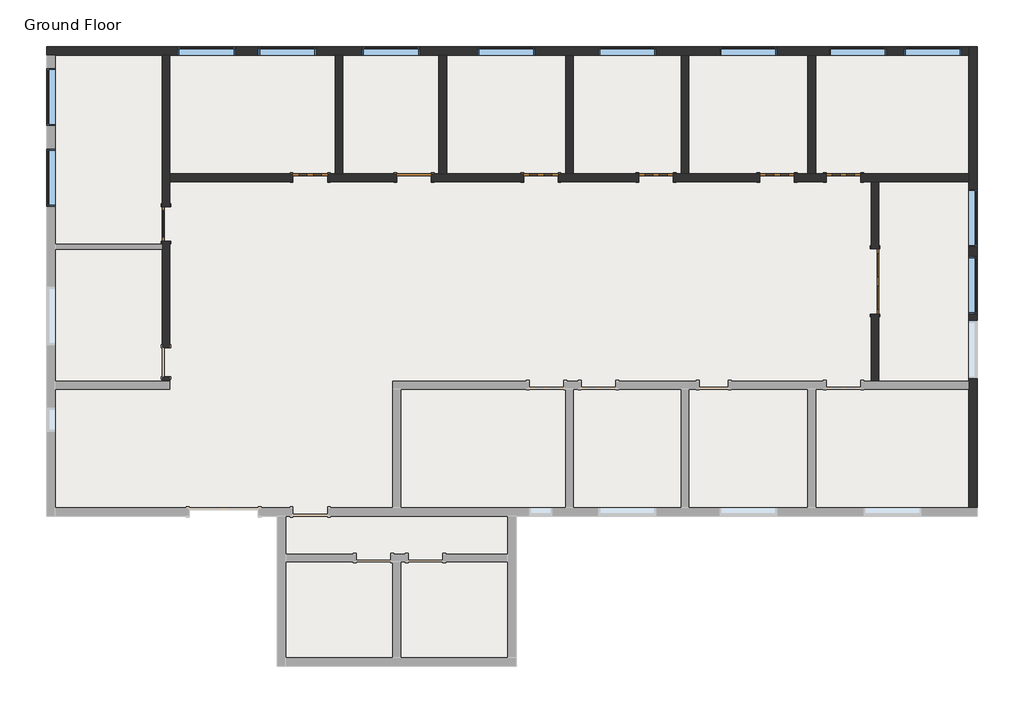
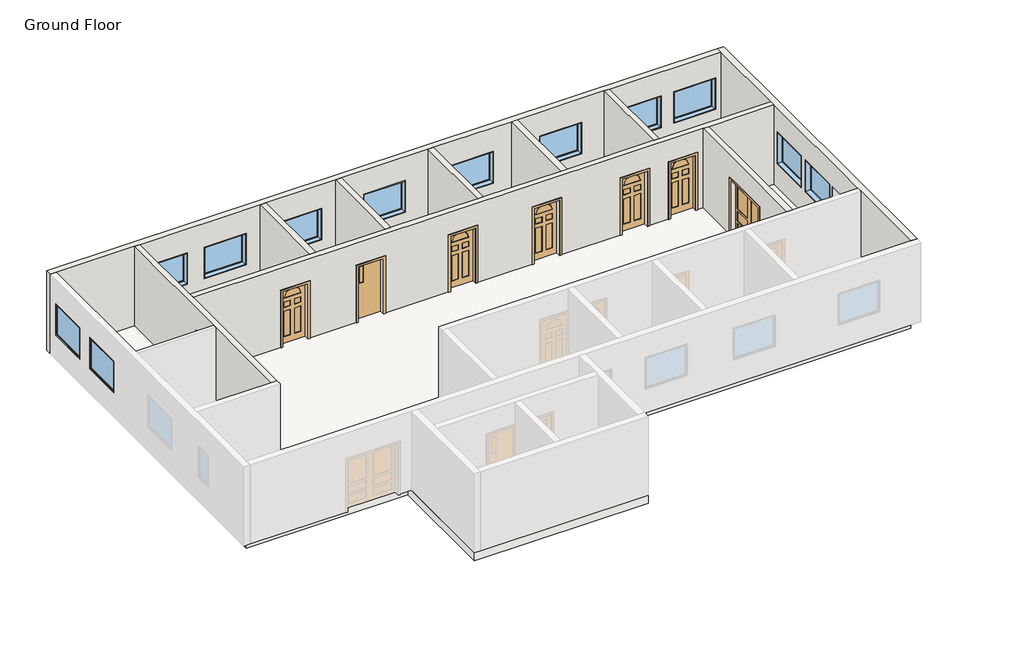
# One storey, part 2 of 2: 12 windows, 10 walls, 8 doors, 1 slab.
"""IFC4 building model written with IfcOpenShell, lengths in millimetres."""

import ifcopenshell
import ifcopenshell.guid

model = None  # the IFC model being written
_history = None  # IfcOwnerHistory: only IFC2X3 demands one
_inside = {}  # id of a spatial element -> (the spatial element, [elements in it])
_under = {}  # id of a project, library or spatial element -> (it, [spatial elements below it])
_declared = {}  # id of a project -> (the project, [libraries it declares])
_typed = {}  # id of a type object -> (the type object, [elements of that type])
_made_of = {}  # id of a material, layer set ... -> (it, [elements and type objects made of it])


def new_model(schema):
    """Start an empty IFC model of exactly this schema.

    Asked for "IFC4X3", IfcOpenShell would pick the latest addendum, in which some entities
    have other attributes; the version numbers below select the first issue.
    IFC2X3 requires an IfcOwnerHistory on every rooted entity: one is made here for all.
    """
    global model, _history
    if schema == "IFC4X3":
        model = ifcopenshell.file(schema_version=(4, 3, 0, 0))
    else:
        model = ifcopenshell.file(schema=schema)
    _inside.clear()
    _under.clear()
    _declared.clear()
    _typed.clear()
    _made_of.clear()
    _history = None
    if model.schema == "IFC2X3":
        org = make("IfcOrganization", Name="unknown")
        user = make(
            "IfcPersonAndOrganization",
            ThePerson=make("IfcPerson", FamilyName="unknown"),
            TheOrganization=org,
        )
        app = make(
            "IfcApplication",
            ApplicationDeveloper=org,
            Version="unknown",
            ApplicationFullName="unknown",
            ApplicationIdentifier="unknown",
        )
        _history = make(
            "IfcOwnerHistory",
            OwningUser=user,
            OwningApplication=app,
            ChangeAction="ADDED",
            CreationDate=0,
        )
    return model


def make(cls, **values):
    """One entity of the class cls with the attributes given. An attribute that is None is left unset."""
    return model.create_entity(
        cls, **{name: value for name, value in values.items() if value is not None}
    )


def rooted(cls, **values):
    """An entity with a GlobalId (a new one), such as an element, a storey or a relation."""
    return make(cls, GlobalId=ifcopenshell.guid.new(), OwnerHistory=_history, **values)


def si_unit(unit_type, name, prefix=None):
    """IfcSIUnit, for example si_unit("LENGTHUNIT", "METRE", prefix="MILLI")."""
    return make("IfcSIUnit", UnitType=unit_type, Prefix=prefix, Name=name)


def assignment(units):
    """IfcUnitAssignment: the units of a project."""
    return None if units is None else make("IfcUnitAssignment", Units=units)


def point(xyz):
    """IfcCartesianPoint."""
    return None if xyz is None else make("IfcCartesianPoint", Coordinates=xyz)


def direction(xyz):
    """IfcDirection."""
    return None if xyz is None else make("IfcDirection", DirectionRatios=xyz)


def frame(location, z_axis=None, x_axis=None):
    """IfcAxis2Placement3D, a coordinate frame: its origin and axes. An axis left out is left unset."""
    return make(
        "IfcAxis2Placement3D",
        Location=point(location),
        Axis=direction(z_axis),
        RefDirection=direction(x_axis),
    )


def frame_2d(location, x_axis=None):
    """IfcAxis2Placement2D, a coordinate frame in the plane: its origin and x axis."""
    return make(
        "IfcAxis2Placement2D", Location=point(location), RefDirection=direction(x_axis)
    )


def origin():
    """The frame at (0, 0, 0) with its axes left unset."""
    return frame((0.0, 0.0, 0.0))


def origin_with_axes():
    """The frame at (0, 0, 0) with the z axis (0, 0, 1) and the x axis (1, 0, 0) written out."""
    return frame((0.0, 0.0, 0.0), z_axis=(0.0, 0.0, 1.0), x_axis=(1.0, 0.0, 0.0))


def place(relative_to, where):
    """IfcLocalPlacement: puts the frame where relative to a parent placement (None: the world)."""
    return make(
        "IfcLocalPlacement", PlacementRelTo=relative_to, RelativePlacement=where
    )


def context(
    kind, dimensions, precision=None, world=None, true_north=None, identifier=None
):
    """IfcGeometricRepresentationContext, for example the 3D "Model" context."""
    return make(
        "IfcGeometricRepresentationContext",
        ContextIdentifier=identifier,
        ContextType=kind,
        CoordinateSpaceDimension=dimensions,
        Precision=precision,
        WorldCoordinateSystem=world,
        TrueNorth=true_north,
    )


def project(units=None, contexts=None):
    """IfcProject with its units and contexts."""
    return rooted(
        "IfcProject",
        Name="project",
        RepresentationContexts=contexts,
        UnitsInContext=assignment(units),
    )


def spatial(cls, under=None, at=None, **own):
    """A site, building, storey or space (cls), placed at a placement, below another one or the project."""
    s = rooted(cls, ObjectPlacement=at, **own)
    if under is not None:
        _under.setdefault(under.id(), (under, []))[1].append(s)
    return s


def polyline(points):
    """IfcPolyline through the points."""
    return make("IfcPolyline", Points=[point(p) for p in points])


def circle_curve(where, radius):
    """IfcCircle in the frame where."""
    return make("IfcCircle", Position=where, Radius=radius)


def trimmed(basis, trim1, trim2, sense, master):
    """IfcTrimmedCurve: the piece of a basis curve between two trims."""
    return make(
        "IfcTrimmedCurve",
        BasisCurve=basis,
        Trim1=trim1,
        Trim2=trim2,
        SenseAgreement=sense,
        MasterRepresentation=master,
    )


def segment(curve, same_sense, transition):
    """IfcCompositeCurveSegment."""
    return make(
        "IfcCompositeCurveSegment",
        Transition=transition,
        SameSense=same_sense,
        ParentCurve=curve,
    )


def composite_curve(segments, self_intersect=None):
    """IfcCompositeCurve: segments joined end to end."""
    return make("IfcCompositeCurve", Segments=segments, SelfIntersect=self_intersect)


def outline(outer, holes=None, kind="AREA"):
    """IfcArbitraryClosedProfileDef: a profile drawn as a closed curve; with holes, ...WithVoids."""
    if holes is None:
        return make("IfcArbitraryClosedProfileDef", ProfileType=kind, OuterCurve=outer)
    return make(
        "IfcArbitraryProfileDefWithVoids",
        ProfileType=kind,
        OuterCurve=outer,
        InnerCurves=holes,
    )


def extrude(swept, where, along, depth):
    """IfcExtrudedAreaSolid: the profile swept, set in the frame where, extruded along a direction by depth."""
    return make(
        "IfcExtrudedAreaSolid",
        SweptArea=swept,
        Position=where,
        ExtrudedDirection=direction(along),
        Depth=depth,
    )


def faces_of(points, faces, orient=None, outer=None):
    """IfcFace entities. A face is a list of loops; a loop is a list of indices into points, from 0.

    orient and outer hold one flag for each loop. By default every Orientation is true, the
    first loop of a face is its IfcFaceOuterBound and the others are IfcFaceBound.
    """
    made = []
    for i, loops in enumerate(faces):
        bounds = []
        for j, loop in enumerate(loops):
            is_outer = j == 0 if outer is None else outer[i][j]
            bounds.append(
                make(
                    "IfcFaceOuterBound" if is_outer else "IfcFaceBound",
                    Bound=make("IfcPolyLoop", Polygon=[points[k] for k in loop]),
                    Orientation=True if orient is None else orient[i][j],
                )
            )
        made.append(make("IfcFace", Bounds=bounds))
    return made


def faceted_brep(points, faces, orient=None, outer=None, voids=None):
    """IfcFacetedBrep: a solid bounded by flat faces; with voids (closed shells), ...WithVoids."""
    shared = [point(p) for p in points]
    hull = make("IfcClosedShell", CfsFaces=faces_of(shared, faces, orient, outer))
    if voids is None:
        return make("IfcFacetedBrep", Outer=hull)
    return make(
        "IfcFacetedBrepWithVoids",
        Outer=hull,
        Voids=[
            make(cls, CfsFaces=faces_of(shared, fs, o, b)) for cls, fs, o, b in voids
        ],
    )


def shape(context_of_items, identifier, shape_type, items):
    """IfcShapeRepresentation: the items that make up one representation, for example the "Body"."""
    return make(
        "IfcShapeRepresentation",
        ContextOfItems=context_of_items,
        RepresentationIdentifier=identifier,
        RepresentationType=shape_type,
        Items=items,
    )


def source(mapping_origin, context_of_items, identifier, shape_type, items):
    """IfcRepresentationMap: a shape defined once, which mapped items show again and again."""
    return make(
        "IfcRepresentationMap",
        MappingOrigin=mapping_origin,
        MappedRepresentation=shape(context_of_items, identifier, shape_type, items),
    )


def transform(
    local_origin,
    x_axis=None,
    y_axis=None,
    z_axis=None,
    scale=None,
    scale2=None,
    scale3=None,
    uniform=True,
):
    """IfcCartesianTransformationOperator3D, or its non-uniform kind. x_axis, y_axis, z_axis: its Axis1, 2, 3."""
    if uniform:
        return make(
            "IfcCartesianTransformationOperator3D",
            Axis1=direction(x_axis),
            Axis2=direction(y_axis),
            LocalOrigin=point(local_origin),
            Scale=scale,
            Axis3=direction(z_axis),
        )
    return make(
        "IfcCartesianTransformationOperator3DnonUniform",
        Axis1=direction(x_axis),
        Axis2=direction(y_axis),
        LocalOrigin=point(local_origin),
        Scale=scale,
        Axis3=direction(z_axis),
        Scale2=scale2,
        Scale3=scale3,
    )


def mapped(mapping_source, mapping_target):
    """IfcMappedItem: shows the shape of a source again, moved by a transform."""
    return make(
        "IfcMappedItem", MappingSource=mapping_source, MappingTarget=mapping_target
    )


def made_of(thing, what):
    """Note that an element or type object is made of a material, layer set ...; save() writes the relation."""
    if what is not None:
        _made_of.setdefault(what.id(), (what, []))[1].append(thing)
    return thing


def element(
    cls,
    number,
    at=None,
    inside=None,
    cuts=None,
    type_object=None,
    material=None,
    context=None,
    identifier="Body",
    shape_type=None,
    held_by="IfcProductDefinitionShape",
    body=None,
    shapes=None,
    **own,
):
    """One element of the class cls, such as IfcWall. Its Tag is "e" and its number.

    at: its placement. inside: the storey or other place that contains it. cuts: it is an
    opening in that element (IfcRelVoidsElement). A single representation is given by context,
    identifier, shape_type and body (its items); several are given by shapes. held_by: the class
    of the entity that holds the representations. save() writes the other relations.
    """
    e = rooted(cls, Tag="e%d" % number, ObjectPlacement=at, **own)
    if body is not None:
        shapes = [shape(context, identifier, shape_type, body)]
    if shapes is not None:
        e.Representation = make(held_by, Representations=shapes)
    if inside is not None:
        _inside.setdefault(inside.id(), (inside, []))[1].append(e)
    if cuts is not None:
        rooted(
            "IfcRelVoidsElement", RelatingBuildingElement=cuts, RelatedOpeningElement=e
        )
    if type_object is not None:
        _typed.setdefault(type_object.id(), (type_object, []))[1].append(e)
    return made_of(e, material)


def aggregate(whole, parts):
    """IfcRelAggregates: a whole, such as a stair, and the parts it consists of."""
    return rooted("IfcRelAggregates", RelatingObject=whole, RelatedObjects=parts)


def save(model, path):
    """Write the relations noted so far, then the file.

    IfcRelAggregates (storeys below a building ...), IfcRelContainedInSpatialStructure (elements
    in a storey), IfcRelDefinesByType, IfcRelAssociatesMaterial and IfcRelDeclares: one each for
    every whole, place, type object, material and project.
    """
    for whole, parts in _under.values():
        aggregate(whole, parts)
    for where, things in _inside.values():
        rooted(
            "IfcRelContainedInSpatialStructure",
            RelatedElements=things,
            RelatingStructure=where,
        )
    for kind, things in _typed.values():
        rooted("IfcRelDefinesByType", RelatedObjects=things, RelatingType=kind)
    for what, things in _made_of.values():
        rooted("IfcRelAssociatesMaterial", RelatedObjects=things, RelatingMaterial=what)
    for by, libraries in _declared.values():
        rooted("IfcRelDeclares", RelatingContext=by, RelatedDefinitions=libraries)
    model.write(path)


def door_5eeea989(model_context):
    return source(origin(), model_context, "Body", "SweptSolid", [
        extrude(outline(polyline([(2209.8, -939.8), (0.0, -939.8), (0.0, -863.6), (2133.6, -863.6), (2133.6, 863.6), (0.0, 863.6), (0.0, 939.8), (2209.8, 939.8), (2209.8, -939.8)])), frame((0.0, 101.6, 0.0), z_axis=(0.0, 1.0, 0.0), x_axis=(0.0, 0.0, 1.0)), (0.0, 0.0, 1.0), 25.4),
        extrude(outline(polyline([(127.0, 88.9), (736.6, 88.9), (736.6, 63.5), (127.0, 63.5), (127.0, 88.9)])), frame((0.0, 0.0, 1066.8), z_axis=(0.0, 0.0, 1.0), x_axis=(1.0, 0.0, 0.0)), (0.0, 0.0, 1.0), 914.4),
        extrude(outline(polyline([(127.0, 88.9), (736.6, 88.9), (736.6, 63.5), (127.0, 63.5), (127.0, 88.9)])), frame((0.0, 0.0, 609.6), z_axis=(0.0, 0.0, 1.0), x_axis=(1.0, 0.0, 0.0)), (0.0, 0.0, 1.0), 355.6),
        extrude(outline(polyline([(127.0, 88.9), (736.6, 88.9), (736.6, 63.5), (127.0, 63.5), (127.0, 88.9)])), frame((0.0, 0.0, 152.4), z_axis=(0.0, 0.0, 1.0), x_axis=(1.0, 0.0, 0.0)), (0.0, 0.0, 1.0), 355.6),
        extrude(outline(polyline([(-736.6, 88.9), (-127.0, 88.9), (-127.0, 63.5), (-736.6, 63.5), (-736.6, 88.9)])), frame((0.0, 0.0, 1066.8), z_axis=(0.0, 0.0, 1.0), x_axis=(1.0, 0.0, 0.0)), (0.0, 0.0, 1.0), 914.4),
        extrude(outline(polyline([(-736.6, 88.9), (-127.0, 88.9), (-127.0, 63.5), (-736.6, 63.5), (-736.6, 88.9)])), frame((0.0, 0.0, 609.6), z_axis=(0.0, 0.0, 1.0), x_axis=(1.0, 0.0, 0.0)), (0.0, 0.0, 1.0), 355.6),
        extrude(outline(polyline([(-736.6, 88.9), (-127.0, 88.9), (-127.0, 63.5), (-736.6, 63.5), (-736.6, 88.9)])), frame((0.0, 0.0, 152.4), z_axis=(0.0, 0.0, 1.0), x_axis=(1.0, 0.0, 0.0)), (0.0, 0.0, 1.0), 355.6),
        extrude(outline(polyline([(2133.6, -863.6), (0.0, -863.6), (0.0, 863.6), (2133.6, 863.6), (2133.6, -863.6)]), holes=[polyline([(1981.2, 127.0), (1981.2, 736.6), (1066.8, 736.6), (1066.8, 127.0), (1981.2, 127.0)]), polyline([(609.6, 736.6), (609.6, 127.0), (965.2, 127.0), (965.2, 736.6), (609.6, 736.6)]), polyline([(508.0, 736.6), (152.4, 736.6), (152.4, 127.0), (508.0, 127.0), (508.0, 736.6)]), polyline([(1981.2, -127.0), (1066.8, -127.0), (1066.8, -736.6), (1981.2, -736.6), (1981.2, -127.0)]), polyline([(965.2, -736.6), (965.2, -127.0), (609.6, -127.0), (609.6, -736.6), (965.2, -736.6)]), polyline([(152.4, -127.0), (152.4, -736.6), (508.0, -736.6), (508.0, -127.0), (152.4, -127.0)])]), frame((0.0, 50.8, 0.0), z_axis=(0.0, 1.0, 0.0), x_axis=(0.0, 0.0, 1.0)), (0.0, 0.0, 1.0), 50.8),
        extrude(outline(polyline([(2133.6, -863.6), (2133.6, 863.6), (0.0, 863.6), (0.0, 939.8), (2209.8, 939.8), (2209.8, -939.8), (0.0, -939.8), (0.0, -863.6), (2133.6, -863.6)])), frame((0.0, -127.0, 0.0), z_axis=(0.0, 1.0, 0.0), x_axis=(0.0, 0.0, 1.0)), (0.0, 0.0, 1.0), 25.4),
    ])


def door_f6339938(model_context):
    return source(origin(), model_context, "Body", "SweptSolid", [
        extrude(outline(polyline([(0.0, -457.2), (0.0, 457.2), (2133.6, 457.2), (2133.6, -457.2), (0.0, -457.2)]), holes=[polyline([(254.0, -76.2), (254.0, -304.8), (1219.2, -304.8), (1219.2, -76.2), (254.0, -76.2)]), polyline([(254.0, 304.8), (254.0, 76.2), (1219.2, 76.2), (1219.2, 304.8), (254.0, 304.8)]), polyline([(1371.6, 76.2), (1574.8, 76.2), (1574.8, 304.8), (1371.6, 304.8), (1371.6, 76.2)]), polyline([(1371.6, -304.8), (1574.8, -304.8), (1574.8, -76.2), (1371.6, -76.2), (1371.6, -304.8)]), composite_curve([segment(polyline([(1727.2, 304.8), (1727.2, -304.8)]), True, "CONTINUOUS"), segment(trimmed(circle_curve(frame_2d((1727.2, 0.0)), 304.8), [point((1727.2, -304.8))], [point((1727.2, 304.8))], True, "CARTESIAN"), True, "CONTINUOUS")], self_intersect=False)]), frame((0.0, 50.8, 0.0), z_axis=(0.0, 1.0, 0.0), x_axis=(0.0, 0.0, 1.0)), (0.0, 0.0, 1.0), 50.8),
        extrude(outline(polyline([(0.0, 457.2), (0.0, 533.4), (2209.8, 533.4), (2209.8, -533.4), (0.0, -533.4), (0.0, -457.2), (2133.6, -457.2), (2133.6, 457.2), (0.0, 457.2)])), frame((0.0, -127.0, 0.0), z_axis=(0.0, 1.0, 0.0), x_axis=(0.0, 0.0, 1.0)), (0.0, 0.0, 1.0), 25.4),
        extrude(outline(polyline([(2209.8, -533.4), (0.0, -533.4), (0.0, -457.2), (2133.6, -457.2), (2133.6, 457.2), (0.0, 457.2), (0.0, 533.4), (2209.8, 533.4), (2209.8, -533.4)])), frame((0.0, 101.6, 0.0), z_axis=(0.0, 1.0, 0.0), x_axis=(0.0, 0.0, 1.0)), (0.0, 0.0, 1.0), 25.4),
        extrude(outline(composite_curve([segment(polyline([(1727.2, -304.8), (1727.2, 304.8)]), True, "CONTINUOUS"), segment(trimmed(circle_curve(frame_2d((1727.2, 0.0)), 304.8), [point((1727.2, 304.8))], [point((1727.2, -304.8))], False, "CARTESIAN"), True, "CONTINUOUS")], self_intersect=False)), frame((0.0, 67.7333333, 0.0), z_axis=(0.0, 1.0, 0.0), x_axis=(0.0, 0.0, 1.0)), (0.0, 0.0, 1.0), 16.9333333),
        extrude(outline(polyline([(-304.8, 84.6666667), (-76.2, 84.6666667), (-76.2, 67.7333333), (-304.8, 67.7333333), (-304.8, 84.6666667)])), frame((0.0, 0.0, 254.0), z_axis=(0.0, 0.0, 1.0), x_axis=(1.0, 0.0, 0.0)), (0.0, 0.0, 1.0), 965.2),
        extrude(outline(polyline([(76.2, 84.6666667), (304.8, 84.6666667), (304.8, 67.7333333), (76.2, 67.7333333), (76.2, 84.6666667)])), frame((0.0, 0.0, 254.0), z_axis=(0.0, 0.0, 1.0), x_axis=(1.0, 0.0, 0.0)), (0.0, 0.0, 1.0), 965.2),
        extrude(outline(polyline([(76.2, 84.6666667), (304.8, 84.6666667), (304.8, 67.7333333), (76.2, 67.7333333), (76.2, 84.6666667)])), frame((0.0, 0.0, 1371.6), z_axis=(0.0, 0.0, 1.0), x_axis=(1.0, 0.0, 0.0)), (0.0, 0.0, 1.0), 203.2),
        extrude(outline(polyline([(-304.8, 84.6666667), (-76.2, 84.6666667), (-76.2, 67.7333333), (-304.8, 67.7333333), (-304.8, 84.6666667)])), frame((0.0, 0.0, 1371.6), z_axis=(0.0, 0.0, 1.0), x_axis=(1.0, 0.0, 0.0)), (0.0, 0.0, 1.0), 203.2),
    ])


def door_23e61c23(model_context):
    return source(origin(), model_context, "Body", "SweptSolid", [
        extrude(outline(polyline([(0.0, -457.2), (0.0, 457.2), (2133.6, 457.2), (2133.6, -457.2), (0.0, -457.2)]), holes=[polyline([(254.0, -76.2), (254.0, -304.8), (1219.2, -304.8), (1219.2, -76.2), (254.0, -76.2)]), polyline([(254.0, 304.8), (254.0, 76.2), (1219.2, 76.2), (1219.2, 304.8), (254.0, 304.8)]), polyline([(1371.6, 76.2), (1574.8, 76.2), (1574.8, 304.8), (1371.6, 304.8), (1371.6, 76.2)]), polyline([(1371.6, -304.8), (1574.8, -304.8), (1574.8, -76.2), (1371.6, -76.2), (1371.6, -304.8)]), composite_curve([segment(polyline([(1727.2, 304.8), (1727.2, -304.8)]), True, "CONTINUOUS"), segment(trimmed(circle_curve(frame_2d((1727.2, 0.0)), 304.8), [point((1727.2, -304.8))], [point((1727.2, 304.8))], True, "CARTESIAN"), True, "CONTINUOUS")], self_intersect=False)]), frame((0.0, -101.6, 0.0), z_axis=(0.0, 1.0, 0.0), x_axis=(0.0, 0.0, 1.0)), (0.0, 0.0, 1.0), 50.8),
        extrude(outline(polyline([(0.0, 457.2), (0.0, 533.4), (2209.8, 533.4), (2209.8, -533.4), (0.0, -533.4), (0.0, -457.2), (2133.6, -457.2), (2133.6, 457.2), (0.0, 457.2)])), frame((0.0, 101.6, 0.0), z_axis=(0.0, 1.0, 0.0), x_axis=(0.0, 0.0, 1.0)), (0.0, 0.0, 1.0), 25.4),
        extrude(outline(polyline([(2209.8, -533.4), (0.0, -533.4), (0.0, -457.2), (2133.6, -457.2), (2133.6, 457.2), (0.0, 457.2), (0.0, 533.4), (2209.8, 533.4), (2209.8, -533.4)])), frame((0.0, -127.0, 0.0), z_axis=(0.0, 1.0, 0.0), x_axis=(0.0, 0.0, 1.0)), (0.0, 0.0, 1.0), 25.4),
        extrude(outline(composite_curve([segment(polyline([(1727.2, -304.8), (1727.2, 304.8)]), True, "CONTINUOUS"), segment(trimmed(circle_curve(frame_2d((1727.2, 0.0)), 304.8), [point((1727.2, 304.8))], [point((1727.2, -304.8))], False, "CARTESIAN"), True, "CONTINUOUS")], self_intersect=False)), frame((0.0, -84.6666667, 0.0), z_axis=(0.0, 1.0, 0.0), x_axis=(0.0, 0.0, 1.0)), (0.0, 0.0, 1.0), 16.9333333),
        extrude(outline(polyline([(-304.8, -84.6666667), (-304.8, -67.7333333), (-76.2, -67.7333333), (-76.2, -84.6666667), (-304.8, -84.6666667)])), frame((0.0, 0.0, 254.0), z_axis=(0.0, 0.0, 1.0), x_axis=(1.0, 0.0, 0.0)), (0.0, 0.0, 1.0), 965.2),
        extrude(outline(polyline([(76.2, -84.6666667), (76.2, -67.7333333), (304.8, -67.7333333), (304.8, -84.6666667), (76.2, -84.6666667)])), frame((0.0, 0.0, 254.0), z_axis=(0.0, 0.0, 1.0), x_axis=(1.0, 0.0, 0.0)), (0.0, 0.0, 1.0), 965.2),
        extrude(outline(polyline([(76.2, -84.6666667), (76.2, -67.7333333), (304.8, -67.7333333), (304.8, -84.6666667), (76.2, -84.6666667)])), frame((0.0, 0.0, 1371.6), z_axis=(0.0, 0.0, 1.0), x_axis=(1.0, 0.0, 0.0)), (0.0, 0.0, 1.0), 203.2),
        extrude(outline(polyline([(-304.8, -84.6666667), (-304.8, -67.7333333), (-76.2, -67.7333333), (-76.2, -84.6666667), (-304.8, -84.6666667)])), frame((0.0, 0.0, 1371.6), z_axis=(0.0, 0.0, 1.0), x_axis=(1.0, 0.0, 0.0)), (0.0, 0.0, 1.0), 203.2),
    ])


def door_6ffddb7e(model_context):
    return source(origin(), model_context, "Body", "SweptSolid", [
        extrude(outline(polyline([(2209.8, -533.4), (0.0, -533.4), (0.0, -457.2), (2133.6, -457.2), (2133.6, 457.2), (0.0, 457.2), (0.0, 533.4), (2209.8, 533.4), (2209.8, -533.4)])), frame((0.0, 101.6, 0.0), z_axis=(0.0, 1.0, 0.0), x_axis=(0.0, 0.0, 1.0)), (0.0, 0.0, 1.0), 25.4),
        extrude(outline(polyline([(2133.6, 457.2), (0.0, 457.2), (0.0, 533.4), (2209.8, 533.4), (2209.8, -533.4), (0.0, -533.4), (0.0, -457.2), (2133.6, -457.2), (2133.6, 457.2)])), frame((0.0, -127.0, 0.0), z_axis=(0.0, 1.0, 0.0), x_axis=(0.0, 0.0, 1.0)), (0.0, 0.0, 1.0), 25.4),
        extrude(outline(polyline([(-177.8, 63.5), (-304.8, 63.5), (-304.8, 69.85), (-177.8, 69.85), (-177.8, 63.5)])), frame((0.0, 0.0, 1346.2), z_axis=(0.0, 0.0, 1.0), x_axis=(1.0, 0.0, 0.0)), (0.0, 0.0, 1.0), 635.0),
        extrude(outline(polyline([(-177.8, 82.55), (-304.8, 82.55), (-304.8, 88.9), (-177.8, 88.9), (-177.8, 82.55)])), frame((0.0, 0.0, 1346.2), z_axis=(0.0, 0.0, 1.0), x_axis=(1.0, 0.0, 0.0)), (0.0, 0.0, 1.0), 635.0),
        extrude(outline(polyline([(2133.6, -457.2), (0.0, -457.2), (0.0, 457.2), (2133.6, 457.2), (2133.6, -457.2)]), holes=[polyline([(1981.2, -304.8), (1981.2, -177.8), (1346.2, -177.8), (1346.2, -304.8), (1981.2, -304.8)])]), frame((0.0, 50.8, 0.0), z_axis=(0.0, 1.0, 0.0), x_axis=(0.0, 0.0, 1.0)), (0.0, 0.0, 1.0), 50.8),
    ])


def door_505a9a4a(model_context):
    return source(origin(), model_context, "Body", "SweptSolid", [
        extrude(outline(polyline([(2133.6, 457.2), (0.0, 457.2), (0.0, 533.4), (2209.8, 533.4), (2209.8, -533.4), (0.0, -533.4), (0.0, -457.2), (2133.6, -457.2), (2133.6, 457.2)])), frame((0.0, 101.6, 0.0), z_axis=(0.0, 1.0, 0.0), x_axis=(0.0, 0.0, 1.0)), (0.0, 0.0, 1.0), 25.4),
        extrude(outline(polyline([(2133.6, 457.2), (0.0, 457.2), (0.0, 533.4), (2209.8, 533.4), (2209.8, -533.4), (0.0, -533.4), (0.0, -457.2), (2133.6, -457.2), (2133.6, 457.2)])), frame((0.0, -127.0, 0.0), z_axis=(0.0, 1.0, 0.0), x_axis=(0.0, 0.0, 1.0)), (0.0, 0.0, 1.0), 25.4),
        extrude(outline(polyline([(355.6, -73.025), (355.6, -79.375), (-355.6, -79.375), (-355.6, -73.025), (355.6, -73.025)])), frame((0.0, 0.0, 101.6), z_axis=(0.0, 0.0, 1.0), x_axis=(1.0, 0.0, 0.0)), (0.0, 0.0, 1.0), 1930.4),
        extrude(outline(polyline([(2133.6, 457.2), (2133.6, -457.2), (0.0, -457.2), (0.0, 457.2), (2133.6, 457.2)]), holes=[polyline([(2032.0, -355.6), (2032.0, 355.6), (101.6, 355.6), (101.6, -355.6), (2032.0, -355.6)])]), frame((0.0, -101.6, 0.0), z_axis=(0.0, 1.0, 0.0), x_axis=(0.0, 0.0, 1.0)), (0.0, 0.0, 1.0), 50.8),
    ])


def window_145d3b12(model_context):
    return source(origin(), model_context, "Body", "SweptSolid", [
        extrude(outline(polyline([(660.4, 66.675), (-736.6, 66.675), (-736.6, 79.375), (660.4, 79.375), (660.4, 66.675)])), frame((0.0, 0.0, 977.9), z_axis=(0.0, 0.0, 1.0), x_axis=(1.0, 0.0, 0.0)), (0.0, 0.0, 1.0), 1092.2),
        extrude(outline(polyline([(2114.55, -781.05), (933.45, -781.05), (933.45, 704.85), (2114.55, 704.85), (2114.55, -781.05)]), holes=[polyline([(2070.1, -736.6), (2070.1, 660.4), (977.9, 660.4), (977.9, -736.6), (2070.1, -736.6)])]), frame((0.0, 50.8, 0.0), z_axis=(0.0, 1.0, 0.0), x_axis=(0.0, 0.0, 1.0)), (0.0, 0.0, 1.0), 44.45),
        extrude(outline(polyline([(2133.6, -800.1), (914.4, -800.1), (914.4, 723.9), (2133.6, 723.9), (2133.6, -800.1)]), holes=[polyline([(2101.85, -768.35), (2101.85, 692.15), (946.15, 692.15), (946.15, -768.35), (2101.85, -768.35)])]), frame((0.0, -114.3, 0.0), z_axis=(0.0, 1.0, 0.0), x_axis=(0.0, 0.0, 1.0)), (0.0, 0.0, 1.0), 165.1),
        extrude(outline(polyline([(2133.6, 723.9), (2133.6, -800.1), (914.4, -800.1), (914.4, 723.9), (2133.6, 723.9)]), holes=[polyline([(2114.55, 704.85), (933.45, 704.85), (933.45, -781.05), (2114.55, -781.05), (2114.55, 704.85)])]), frame((0.0, 50.8, 0.0), z_axis=(0.0, 1.0, 0.0), x_axis=(0.0, 0.0, 1.0)), (0.0, 0.0, 1.0), 63.5),
    ])


model = new_model("IFC4")

# Units and contexts
model_context = context("Model", 3, world=origin())
ifc_project = project(units=[si_unit("LENGTHUNIT", "METRE", prefix="MILLI")], contexts=[model_context])

# Site, building, storey
site = spatial("IfcSite", under=ifc_project)
building = spatial("IfcBuilding", under=site)
storey = spatial("IfcBuildingStorey", under=building, Name="Ground Floor", Elevation=0.0)

# Doors
placement = place(None, origin())
door_shape = door_5eeea989(model_context)
element("IfcDoor", 1, ObjectType="Double-Panel 1 : 68\" x 84\"", at=placement, inside=storey, context=model_context, shape_type="MappedRepresentation", body=[
    mapped(door_shape, transform((9307.5955952, 1505.7166256, 0.0), x_axis=(0.0, -1.0, 0.0), y_axis=(1.0, 0.0, 0.0), z_axis=(0.0, 0.0, 1.0))),
])
door_2_shape = door_f6339938(model_context)
element("IfcDoor", 2, ObjectType="Single-Decorative 2 : 36\" x 84\"", at=placement, inside=storey, context=model_context, shape_type="MappedRepresentation", body=[
    mapped(door_2_shape, transform((-5627.6044048, 4248.9166256, 0.0), x_axis=(1.0, 0.0, 0.0), y_axis=(0.0, 1.0, 0.0), z_axis=(0.0, 0.0, 1.0))),
])
element("IfcDoor", 3, ObjectType="Single-Decorative 2 : 36\" x 84\"", at=placement, inside=storey, context=model_context, shape_type="MappedRepresentation", body=[
    mapped(door_2_shape, transform((468.3955952, 4248.9166256, 0.0), x_axis=(1.0, 0.0, 0.0), y_axis=(0.0, 1.0, 0.0), z_axis=(0.0, 0.0, 1.0))),
])
element("IfcDoor", 4, ObjectType="Single-Decorative 2 : 36\" x 84\"", at=placement, inside=storey, context=model_context, shape_type="MappedRepresentation", body=[
    mapped(door_2_shape, transform((3516.3955952, 4248.9166256, 0.0), x_axis=(1.0, 0.0, 0.0), y_axis=(0.0, 1.0, 0.0), z_axis=(0.0, 0.0, 1.0))),
])
element("IfcDoor", 5, ObjectType="Single-Decorative 2 : 36\" x 84\"", at=placement, inside=storey, context=model_context, shape_type="MappedRepresentation", body=[
    mapped(door_2_shape, transform((6716.7955952, 4248.9166256, 0.0), x_axis=(1.0, 0.0, 0.0), y_axis=(0.0, 1.0, 0.0), z_axis=(0.0, 0.0, 1.0))),
])
door_3_shape = door_23e61c23(model_context)
element("IfcDoor", 6, ObjectType="Single-Decorative 2 : 36\" x 84\"", at=placement, inside=storey, context=model_context, shape_type="MappedRepresentation", body=[
    mapped(door_3_shape, transform((8469.3955952, 4248.9166256, 0.0), x_axis=(-1.0, 0.0, 0.0), y_axis=(0.0, -1.0, 0.0), z_axis=(0.0, 0.0, 1.0))),
])
door_4_shape = door_6ffddb7e(model_context)
element("IfcDoor", 7, ObjectType="Single-Flush Vision : 36\" x 84\"", at=placement, inside=storey, context=model_context, shape_type="MappedRepresentation", body=[
    mapped(door_4_shape, transform((-2884.4044048, 4248.9166256, 0.0), x_axis=(1.0, 0.0, 0.0), y_axis=(0.0, 1.0, 0.0), z_axis=(0.0, 0.0, 1.0))),
])
door_5_shape = door_505a9a4a(model_context)
element("IfcDoor", 8, ObjectType="Single-Glass 1 : 36\" x 84\"", at=placement, inside=storey, context=model_context, shape_type="MappedRepresentation", body=[
    mapped(door_5_shape, transform((-9437.6044048, 3029.7166256, 0.0), x_axis=(0.0, -1.0, 0.0), y_axis=(1.0, 0.0, 0.0), z_axis=(0.0, 0.0, 1.0))),
])

# Slab
element("IfcSlab", 9, ObjectType="Generic - 12\"", at=placement, inside=storey, context=model_context, shape_type="SweptSolid", body=[
    extrude(outline(polyline([(11784.0955952, 7487.4166256), (11784.0955952, -4475.9833744), (-179.3044048, -4475.9833744), (-179.3044048, -8666.9833744), (-6503.9044048, -8666.9833744), (-6503.9044048, -4475.9833744), (-12371.3044048, -4475.9833744), (-12371.3044048, 7487.4166256), (11784.0955952, 7487.4166256)])), frame((0.0, 0.0, -304.8), z_axis=(0.0, 0.0, 1.0), x_axis=(1.0, 0.0, 0.0)), (0.0, 0.0, 1.0), 304.8),
])

# Walls
element("IfcWall", 10, ObjectType="Generic - 8\"", at=placement, inside=storey, context=model_context, shape_type="Brep", body=[
    faceted_brep([(-9539.2044048, 2572.5166256, 2133.6), (-9539.2044048, 2572.5166256, 0.0), (-9539.2044048, 2483.6166256, 0.0), (-9539.2044048, 2356.6166256, 0.0), (-9539.2044048, -246.8833744, 0.0), (-9539.2044048, -246.8833744, 2133.6), (-9539.2044048, -1008.8833744, 2133.6), (-9539.2044048, -1008.8833744, 0.0), (-9539.2044048, -1135.8833744, 0.0), (-9539.2044048, -1135.8833744, 3048.0), (-9539.2044048, 2356.6166256, 3048.0), (-9539.2044048, 2483.6166256, 3048.0), (-9539.2044048, 7487.4166256, 3048.0), (-9539.2044048, 7487.4166256, 0.0), (-9539.2044048, 3486.9166256, 0.0), (-9539.2044048, 3486.9166256, 2133.6), (-9336.0044048, -246.8833744, 0.0), (-9336.0044048, 2572.5166256, 0.0), (-9336.0044048, 2572.5166256, 2133.6), (-9336.0044048, 3486.9166256, 2133.6), (-9336.0044048, 3486.9166256, 0.0), (-9336.0044048, 4147.3166256, 0.0), (-9336.0044048, 4350.5166256, 0.0), (-9336.0044048, 7487.4166256, 0.0), (-9336.0044048, 7487.4166256, 3048.0), (-9336.0044048, 4350.5166256, 3048.0), (-9336.0044048, 4147.3166256, 3048.0), (-9336.0044048, -1135.8833744, 3048.0), (-9336.0044048, -1135.8833744, 0.0), (-9336.0044048, -1008.8833744, 0.0), (-9336.0044048, -1008.8833744, 2133.6), (-9336.0044048, -246.8833744, 2133.6)], [[[0, 1, 2, 3, 4, 5, 6, 7, 8, 9, 10, 11, 12, 13, 14, 15]], [[16, 17, 18, 19, 20, 21, 22, 23, 24, 25, 26, 27, 28, 29, 30, 31]], [[8, 7, 29, 28]], [[14, 13, 23, 22, 21, 20]], [[4, 3, 2, 1, 17, 16]], [[12, 11, 10, 9, 27, 26, 25, 24]], [[13, 12, 24, 23]], [[9, 8, 28, 27]], [[30, 29, 7, 6]], [[31, 30, 6, 5]], [[16, 31, 5, 4]], [[18, 17, 1, 0]], [[19, 18, 0, 15]], [[20, 19, 15, 14]]]),
])
element("IfcWall", 11, ObjectType="Generic - 8\"", at=placement, inside=storey, context=model_context, shape_type="Brep", body=[
    faceted_brep([(7173.9955952, 4147.3166256, 0.0), (8012.1955952, 4147.3166256, 0.0), (8012.1955952, 4147.3166256, 2133.6), (8926.5955952, 4147.3166256, 2133.6), (8926.5955952, 4147.3166256, 0.0), (9205.9955952, 4147.3166256, 0.0), (9409.1955952, 4147.3166256, 0.0), (11784.0955952, 4147.3166256, 0.0), (11784.0955952, 4147.3166256, 3048.0), (9409.1955952, 4147.3166256, 3048.0), (9205.9955952, 4147.3166256, 3048.0), (-9336.0044048, 4147.3166256, 3048.0), (-9336.0044048, 4147.3166256, 0.0), (-6084.8044048, 4147.3166256, 0.0), (-6084.8044048, 4147.3166256, 2133.6), (-5170.4044048, 4147.3166256, 2133.6), (-5170.4044048, 4147.3166256, 0.0), (-3341.6044048, 4147.3166256, 0.0), (-3341.6044048, 4147.3166256, 2133.6), (-2427.2044048, 4147.3166256, 2133.6), (-2427.2044048, 4147.3166256, 0.0), (11.1955952, 4147.3166256, 0.0), (11.1955952, 4147.3166256, 2133.6), (925.5955952, 4147.3166256, 2133.6), (925.5955952, 4147.3166256, 0.0), (3059.1955952, 4147.3166256, 0.0), (3059.1955952, 4147.3166256, 2133.6), (3973.5955952, 4147.3166256, 2133.6), (3973.5955952, 4147.3166256, 0.0), (6259.5955952, 4147.3166256, 0.0), (6259.5955952, 4147.3166256, 2133.6), (7173.9955952, 4147.3166256, 2133.6), (8012.1955952, 4350.5166256, 2133.6), (8012.1955952, 4350.5166256, 0.0), (7732.7955952, 4350.5166256, 0.0), (7529.5955952, 4350.5166256, 0.0), (7173.9955952, 4350.5166256, 0.0), (7173.9955952, 4350.5166256, 2133.6), (6259.5955952, 4350.5166256, 2133.6), (6259.5955952, 4350.5166256, 0.0), (4379.9955952, 4350.5166256, 0.0), (4176.7955952, 4350.5166256, 0.0), (3973.5955952, 4350.5166256, 0.0), (3973.5955952, 4350.5166256, 2133.6), (3059.1955952, 4350.5166256, 2133.6), (3059.1955952, 4350.5166256, 0.0), (1331.9955952, 4350.5166256, 0.0), (1128.7955952, 4350.5166256, 0.0), (925.5955952, 4350.5166256, 0.0), (925.5955952, 4350.5166256, 2133.6), (11.1955952, 4350.5166256, 2133.6), (11.1955952, 4350.5166256, 0.0), (-2020.8044048, 4350.5166256, 0.0), (-2224.0044048, 4350.5166256, 0.0), (-2427.2044048, 4350.5166256, 0.0), (-2427.2044048, 4350.5166256, 2133.6), (-3341.6044048, 4350.5166256, 2133.6), (-3341.6044048, 4350.5166256, 0.0), (-4764.0044048, 4350.5166256, 0.0), (-4967.2044048, 4350.5166256, 0.0), (-5170.4044048, 4350.5166256, 0.0), (-5170.4044048, 4350.5166256, 2133.6), (-6084.8044048, 4350.5166256, 2133.6), (-6084.8044048, 4350.5166256, 0.0), (-9336.0044048, 4350.5166256, 0.0), (-9336.0044048, 4350.5166256, 3048.0), (-4967.2044048, 4350.5166256, 3048.0), (-4764.0044048, 4350.5166256, 3048.0), (-2224.0044048, 4350.5166256, 3048.0), (-2020.8044048, 4350.5166256, 3048.0), (1128.7955952, 4350.5166256, 3048.0), (1331.9955952, 4350.5166256, 3048.0), (4176.7955952, 4350.5166256, 3048.0), (4379.9955952, 4350.5166256, 3048.0), (7529.5955952, 4350.5166256, 3048.0), (7732.7955952, 4350.5166256, 3048.0), (11784.0955952, 4350.5166256, 3048.0), (11784.0955952, 4350.5166256, 0.0), (8926.5955952, 4350.5166256, 0.0), (8926.5955952, 4350.5166256, 2133.6)], [[[0, 1, 2, 3, 4, 5, 6, 7, 8, 9, 10, 11, 12, 13, 14, 15, 16, 17, 18, 19, 20, 21, 22, 23, 24, 25, 26, 27, 28, 29, 30, 31]], [[32, 33, 34, 35, 36, 37, 38, 39, 40, 41, 42, 43, 44, 45, 46, 47, 48, 49, 50, 51, 52, 53, 54, 55, 56, 57, 58, 59, 60, 61, 62, 63, 64, 65, 66, 67, 68, 69, 70, 71, 72, 73, 74, 75, 76, 77, 78, 79]], [[13, 12, 64, 63]], [[17, 16, 60, 59, 58, 57]], [[21, 20, 54, 53, 52, 51]], [[25, 24, 48, 47, 46, 45]], [[29, 28, 42, 41, 40, 39]], [[78, 77, 7, 6, 5, 4]], [[36, 35, 34, 33, 1, 0]], [[11, 10, 9, 8, 76, 75, 74, 73, 72, 71, 70, 69, 68, 67, 66, 65]], [[8, 7, 77, 76]], [[12, 11, 65, 64]], [[55, 54, 20, 19]], [[56, 55, 19, 18]], [[57, 56, 18, 17]], [[61, 60, 16, 15]], [[62, 61, 15, 14]], [[63, 62, 14, 13]], [[49, 48, 24, 23]], [[50, 49, 23, 22]], [[51, 50, 22, 21]], [[43, 42, 28, 27]], [[44, 43, 27, 26]], [[45, 44, 26, 25]], [[37, 36, 0, 31]], [[38, 37, 31, 30]], [[39, 38, 30, 29]], [[2, 1, 33, 32]], [[3, 2, 32, 79]], [[4, 3, 79, 78]]]),
])
element("IfcWall", 12, ObjectType="Generic - 8\"", at=placement, inside=storey, context=model_context, shape_type="SweptSolid", body=[
    extrude(outline(polyline([(-4764.0044048, 7487.4166256), (-4764.0044048, 4350.5166256), (-4967.2044048, 4350.5166256), (-4967.2044048, 7487.4166256), (-4764.0044048, 7487.4166256)])), origin_with_axes(), (0.0, 0.0, 1.0), 3048.0),
])
element("IfcWall", 13, ObjectType="Generic - 8\"", at=placement, inside=storey, context=model_context, shape_type="SweptSolid", body=[
    extrude(outline(polyline([(-2224.0044048, 4350.5166256), (-2224.0044048, 7487.4166256), (-2020.8044048, 7487.4166256), (-2020.8044048, 4350.5166256), (-2224.0044048, 4350.5166256)])), origin_with_axes(), (0.0, 0.0, 1.0), 3048.0),
])
element("IfcWall", 14, ObjectType="Generic - 8\"", at=placement, inside=storey, context=model_context, shape_type="SweptSolid", body=[
    extrude(outline(polyline([(1128.7955952, 4350.5166256), (1128.7955952, 7487.4166256), (1331.9955952, 7487.4166256), (1331.9955952, 4350.5166256), (1128.7955952, 4350.5166256)])), origin_with_axes(), (0.0, 0.0, 1.0), 3048.0),
])
element("IfcWall", 15, ObjectType="Generic - 8\"", at=placement, inside=storey, context=model_context, shape_type="SweptSolid", body=[
    extrude(outline(polyline([(4176.7955952, 4350.5166256), (4176.7955952, 7487.4166256), (4379.9955952, 7487.4166256), (4379.9955952, 4350.5166256), (4176.7955952, 4350.5166256)])), origin_with_axes(), (0.0, 0.0, 1.0), 3048.0),
])
element("IfcWall", 16, ObjectType="Generic - 8\"", at=placement, inside=storey, context=model_context, shape_type="SweptSolid", body=[
    extrude(outline(polyline([(7529.5955952, 4350.5166256), (7529.5955952, 7487.4166256), (7732.7955952, 7487.4166256), (7732.7955952, 4350.5166256), (7529.5955952, 4350.5166256)])), origin_with_axes(), (0.0, 0.0, 1.0), 3048.0),
])
element("IfcWall", 17, ObjectType="Generic - 8\"", at=placement, inside=storey, context=model_context, shape_type="SweptSolid", body=[
    extrude(outline(polyline([(-1135.8833744, 3048.0), (4147.3166256, 3048.0), (4147.3166256, 0.0), (2369.3166256, 0.0), (2369.3166256, 2133.6), (642.1166256, 2133.6), (642.1166256, 0.0), (-1135.8833744, 0.0), (-1135.8833744, 3048.0)])), frame((9205.9955952, 0.0, 0.0), z_axis=(1.0, 0.0, 0.0), x_axis=(0.0, 1.0, 0.0)), (0.0, 0.0, 1.0), 203.2),
])
element("IfcWall", 18, ObjectType="Generic- 9\"", at=placement, inside=storey, context=model_context, shape_type="Brep", body=[
    faceted_brep([(-12599.9044048, 7487.4166256, 0.0), (-12371.3044048, 7487.4166256, 0.0), (-9539.2044048, 7487.4166256, 0.0), (-9336.0044048, 7487.4166256, 0.0), (-4967.2044048, 7487.4166256, 0.0), (-4764.0044048, 7487.4166256, 0.0), (-2224.0044048, 7487.4166256, 0.0), (-2020.8044048, 7487.4166256, 0.0), (1128.7955952, 7487.4166256, 0.0), (1331.9955952, 7487.4166256, 0.0), (4176.7955952, 7487.4166256, 0.0), (4379.9955952, 7487.4166256, 0.0), (7529.5955952, 7487.4166256, 0.0), (7732.7955952, 7487.4166256, 0.0), (11784.0955952, 7487.4166256, 0.0), (11784.0955952, 7487.4166256, 3048.0), (7732.7955952, 7487.4166256, 3048.0), (7529.5955952, 7487.4166256, 3048.0), (4379.9955952, 7487.4166256, 3048.0), (4176.7955952, 7487.4166256, 3048.0), (1331.9955952, 7487.4166256, 3048.0), (1128.7955952, 7487.4166256, 3048.0), (-2020.8044048, 7487.4166256, 3048.0), (-2224.0044048, 7487.4166256, 3048.0), (-4764.0044048, 7487.4166256, 3048.0), (-4967.2044048, 7487.4166256, 3048.0), (-9336.0044048, 7487.4166256, 3048.0), (-9539.2044048, 7487.4166256, 3048.0), (-12371.3044048, 7487.4166256, 3048.0), (-12599.9044048, 7487.4166256, 3048.0), (-7608.8044048, 7487.4166256, 2133.6), (-7608.8044048, 7487.4166256, 914.4), (-9132.8044048, 7487.4166256, 914.4), (-9132.8044048, 7487.4166256, 2133.6), (-5475.2044048, 7487.4166256, 2133.6), (-5475.2044048, 7487.4166256, 914.4), (-6999.2044048, 7487.4166256, 914.4), (-6999.2044048, 7487.4166256, 2133.6), (-2732.0044048, 7487.4166256, 2133.6), (-2732.0044048, 7487.4166256, 914.4), (-4256.0044048, 7487.4166256, 914.4), (-4256.0044048, 7487.4166256, 2133.6), (315.9955952, 7487.4166256, 2133.6), (315.9955952, 7487.4166256, 914.4), (-1208.0044048, 7487.4166256, 914.4), (-1208.0044048, 7487.4166256, 2133.6), (3516.3955952, 7487.4166256, 2133.6), (3516.3955952, 7487.4166256, 914.4), (1992.3955952, 7487.4166256, 914.4), (1992.3955952, 7487.4166256, 2133.6), (6716.7955952, 7487.4166256, 2133.6), (6716.7955952, 7487.4166256, 914.4), (5192.7955952, 7487.4166256, 914.4), (5192.7955952, 7487.4166256, 2133.6), (9612.3955952, 7487.4166256, 2133.6), (9612.3955952, 7487.4166256, 914.4), (8088.3955952, 7487.4166256, 914.4), (8088.3955952, 7487.4166256, 2133.6), (11593.5955952, 7487.4166256, 2133.6), (11593.5955952, 7487.4166256, 914.4), (10069.5955952, 7487.4166256, 914.4), (10069.5955952, 7487.4166256, 2133.6), (-12599.9044048, 7716.0166256, 0.0), (-12599.9044048, 7716.0166256, 3048.0), (11784.0955952, 7716.0166256, 3048.0), (11784.0955952, 7716.0166256, 0.0), (-7608.8044048, 7716.0166256, 2133.6), (-9132.8044048, 7716.0166256, 2133.6), (-9132.8044048, 7716.0166256, 914.4), (-7608.8044048, 7716.0166256, 914.4), (-5475.2044048, 7716.0166256, 2133.6), (-6999.2044048, 7716.0166256, 2133.6), (-6999.2044048, 7716.0166256, 914.4), (-5475.2044048, 7716.0166256, 914.4), (-2732.0044048, 7716.0166256, 2133.6), (-4256.0044048, 7716.0166256, 2133.6), (-4256.0044048, 7716.0166256, 914.4), (-2732.0044048, 7716.0166256, 914.4), (315.9955952, 7716.0166256, 2133.6), (-1208.0044048, 7716.0166256, 2133.6), (-1208.0044048, 7716.0166256, 914.4), (315.9955952, 7716.0166256, 914.4), (3516.3955952, 7716.0166256, 2133.6), (1992.3955952, 7716.0166256, 2133.6), (1992.3955952, 7716.0166256, 914.4), (3516.3955952, 7716.0166256, 914.4), (6716.7955952, 7716.0166256, 2133.6), (5192.7955952, 7716.0166256, 2133.6), (5192.7955952, 7716.0166256, 914.4), (6716.7955952, 7716.0166256, 914.4), (9612.3955952, 7716.0166256, 2133.6), (8088.3955952, 7716.0166256, 2133.6), (8088.3955952, 7716.0166256, 914.4), (9612.3955952, 7716.0166256, 914.4), (11593.5955952, 7716.0166256, 2133.6), (10069.5955952, 7716.0166256, 2133.6), (10069.5955952, 7716.0166256, 914.4), (11593.5955952, 7716.0166256, 914.4)], [[[0, 1, 2, 3, 4, 5, 6, 7, 8, 9, 10, 11, 12, 13, 14, 15, 16, 17, 18, 19, 20, 21, 22, 23, 24, 25, 26, 27, 28, 29], [30, 31, 32, 33], [34, 35, 36, 37], [38, 39, 40, 41], [42, 43, 44, 45], [46, 47, 48, 49], [50, 51, 52, 53], [54, 55, 56, 57], [58, 59, 60, 61]], [[62, 63, 64, 65], [66, 67, 68, 69], [70, 71, 72, 73], [74, 75, 76, 77], [78, 79, 80, 81], [82, 83, 84, 85], [86, 87, 88, 89], [90, 91, 92, 93], [94, 95, 96, 97]], [[14, 13, 12, 11, 10, 9, 8, 7, 6, 5, 4, 3, 2, 1, 0, 62, 65]], [[29, 28, 27, 26, 25, 24, 23, 22, 21, 20, 19, 18, 17, 16, 15, 64, 63]], [[0, 29, 63, 62]], [[15, 14, 65, 64]], [[31, 30, 66, 69]], [[32, 31, 69, 68]], [[33, 32, 68, 67]], [[30, 33, 67, 66]], [[35, 34, 70, 73]], [[36, 35, 73, 72]], [[37, 36, 72, 71]], [[34, 37, 71, 70]], [[39, 38, 74, 77]], [[40, 39, 77, 76]], [[41, 40, 76, 75]], [[38, 41, 75, 74]], [[43, 42, 78, 81]], [[44, 43, 81, 80]], [[45, 44, 80, 79]], [[42, 45, 79, 78]], [[47, 46, 82, 85]], [[48, 47, 85, 84]], [[49, 48, 84, 83]], [[46, 49, 83, 82]], [[51, 50, 86, 89]], [[52, 51, 89, 88]], [[53, 52, 88, 87]], [[50, 53, 87, 86]], [[55, 54, 90, 93]], [[56, 55, 93, 92]], [[57, 56, 92, 91]], [[54, 57, 91, 90]], [[59, 58, 94, 97]], [[60, 59, 97, 96]], [[61, 60, 96, 95]], [[58, 61, 95, 94]]]),
])
element("IfcWall", 19, ObjectType="Generic- 9\"", at=placement, inside=storey, context=model_context, shape_type="Brep", body=[
    faceted_brep([(11784.0955952, 7716.0166256, 0.0), (11784.0955952, 7487.4166256, 0.0), (11784.0955952, 4350.5166256, 0.0), (11784.0955952, 4147.3166256, 0.0), (11784.0955952, -1135.8833744, 0.0), (11784.0955952, -1339.0833744, 0.0), (11784.0955952, -4475.9833744, 0.0), (11784.0955952, -4475.9833744, 3048.0), (11784.0955952, -1339.0833744, 3048.0), (11784.0955952, -1135.8833744, 3048.0), (11784.0955952, 4147.3166256, 3048.0), (11784.0955952, 4350.5166256, 3048.0), (11784.0955952, 7487.4166256, 3048.0), (11784.0955952, 7716.0166256, 3048.0), (11784.0955952, 2420.1166256, 2133.6), (11784.0955952, 2420.1166256, 914.4), (11784.0955952, 3944.1166256, 914.4), (11784.0955952, 3944.1166256, 2133.6), (11784.0955952, 642.1166256, 2133.6), (11784.0955952, 642.1166256, 914.4), (11784.0955952, 2166.1166256, 914.4), (11784.0955952, 2166.1166256, 2133.6), (11784.0955952, -1059.6833744, 2133.6), (11784.0955952, -1059.6833744, 914.4), (11784.0955952, 464.3166256, 914.4), (11784.0955952, 464.3166256, 2133.6), (12012.6955952, 7716.0166256, 0.0), (12012.6955952, 7716.0166256, 3048.0), (12012.6955952, -4475.9833744, 3048.0), (12012.6955952, -4475.9833744, 0.0), (12012.6955952, 2420.1166256, 2133.6), (12012.6955952, 3944.1166256, 2133.6), (12012.6955952, 3944.1166256, 914.4), (12012.6955952, 2420.1166256, 914.4), (12012.6955952, 642.1166256, 2133.6), (12012.6955952, 2166.1166256, 2133.6), (12012.6955952, 2166.1166256, 914.4), (12012.6955952, 642.1166256, 914.4), (12012.6955952, -1059.6833744, 2133.6), (12012.6955952, 464.3166256, 2133.6), (12012.6955952, 464.3166256, 914.4), (12012.6955952, -1059.6833744, 914.4)], [[[0, 1, 2, 3, 4, 5, 6, 7, 8, 9, 10, 11, 12, 13], [14, 15, 16, 17], [18, 19, 20, 21], [22, 23, 24, 25]], [[26, 27, 28, 29], [30, 31, 32, 33], [34, 35, 36, 37], [38, 39, 40, 41]], [[6, 5, 4, 3, 2, 1, 0, 26, 29]], [[13, 12, 11, 10, 9, 8, 7, 28, 27]], [[0, 13, 27, 26]], [[7, 6, 29, 28]], [[15, 14, 30, 33]], [[16, 15, 33, 32]], [[17, 16, 32, 31]], [[14, 17, 31, 30]], [[19, 18, 34, 37]], [[20, 19, 37, 36]], [[21, 20, 36, 35]], [[18, 21, 35, 34]], [[23, 22, 38, 41]], [[24, 23, 41, 40]], [[25, 24, 40, 39]], [[22, 25, 39, 38]]]),
])

# Windows
window_shape = window_145d3b12(model_context)
element("IfcWindow", 20, ObjectType="Fixed : 60\" x 48\"", at=placement, inside=storey, context=model_context, shape_type="MappedRepresentation", body=[
    mapped(window_shape, transform((-12485.6044048, 4287.0166256, 0.0), x_axis=(0.0, 1.0, 0.0), y_axis=(-1.0, 0.0, 0.0), z_axis=(0.0, 0.0, 1.0))),
])
element("IfcWindow", 21, ObjectType="Fixed : 60\" x 48\"", at=placement, inside=storey, context=model_context, shape_type="MappedRepresentation", body=[
    mapped(window_shape, transform((-12485.6044048, 6420.6166256, 0.0), x_axis=(0.0, 1.0, 0.0), y_axis=(-1.0, 0.0, 0.0), z_axis=(0.0, 0.0, 1.0))),
])
element("IfcWindow", 22, ObjectType="Fixed : 60\" x 48\"", at=placement, inside=storey, context=model_context, shape_type="MappedRepresentation", body=[
    mapped(window_shape, transform((-8332.7044048, 7601.7166256, 0.0), x_axis=(1.0, 0.0, 0.0), y_axis=(0.0, 1.0, 0.0), z_axis=(0.0, 0.0, 1.0))),
])
element("IfcWindow", 23, ObjectType="Fixed : 60\" x 48\"", at=placement, inside=storey, context=model_context, shape_type="MappedRepresentation", body=[
    mapped(window_shape, transform((-6199.1044048, 7601.7166256, 0.0), x_axis=(1.0, 0.0, 0.0), y_axis=(0.0, 1.0, 0.0), z_axis=(0.0, 0.0, 1.0))),
])
element("IfcWindow", 24, ObjectType="Fixed : 60\" x 48\"", at=placement, inside=storey, context=model_context, shape_type="MappedRepresentation", body=[
    mapped(window_shape, transform((-3455.9044048, 7601.7166256, 0.0), x_axis=(1.0, 0.0, 0.0), y_axis=(0.0, 1.0, 0.0), z_axis=(0.0, 0.0, 1.0))),
])
element("IfcWindow", 25, ObjectType="Fixed : 60\" x 48\"", at=placement, inside=storey, context=model_context, shape_type="MappedRepresentation", body=[
    mapped(window_shape, transform((-407.9044048, 7601.7166256, 0.0), x_axis=(1.0, 0.0, 0.0), y_axis=(0.0, 1.0, 0.0), z_axis=(0.0, 0.0, 1.0))),
])
element("IfcWindow", 26, ObjectType="Fixed : 60\" x 48\"", at=placement, inside=storey, context=model_context, shape_type="MappedRepresentation", body=[
    mapped(window_shape, transform((2792.4955952, 7601.7166256, 0.0), x_axis=(1.0, 0.0, 0.0), y_axis=(0.0, 1.0, 0.0), z_axis=(0.0, 0.0, 1.0))),
])
element("IfcWindow", 27, ObjectType="Fixed : 60\" x 48\"", at=placement, inside=storey, context=model_context, shape_type="MappedRepresentation", body=[
    mapped(window_shape, transform((5992.8955952, 7601.7166256, 0.0), x_axis=(1.0, 0.0, 0.0), y_axis=(0.0, 1.0, 0.0), z_axis=(0.0, 0.0, 1.0))),
])
element("IfcWindow", 28, ObjectType="Fixed : 60\" x 48\"", at=placement, inside=storey, context=model_context, shape_type="MappedRepresentation", body=[
    mapped(window_shape, transform((8888.4955952, 7601.7166256, 0.0), x_axis=(1.0, 0.0, 0.0), y_axis=(0.0, 1.0, 0.0), z_axis=(0.0, 0.0, 1.0))),
])
element("IfcWindow", 29, ObjectType="Fixed : 60\" x 48\"", at=placement, inside=storey, context=model_context, shape_type="MappedRepresentation", body=[
    mapped(window_shape, transform((10869.6955952, 7601.7166256, 0.0), x_axis=(1.0, 0.0, 0.0), y_axis=(0.0, 1.0, 0.0), z_axis=(0.0, 0.0, 1.0))),
])
element("IfcWindow", 30, ObjectType="Fixed : 60\" x 48\"", at=placement, inside=storey, context=model_context, shape_type="MappedRepresentation", body=[
    mapped(window_shape, transform((11898.3955952, 3144.0166256, 0.0), x_axis=(0.0, -1.0, 0.0), y_axis=(1.0, 0.0, 0.0), z_axis=(0.0, 0.0, 1.0))),
])
element("IfcWindow", 31, ObjectType="Fixed : 60\" x 48\"", at=placement, inside=storey, context=model_context, shape_type="MappedRepresentation", body=[
    mapped(window_shape, transform((11898.3955952, 1366.0166256, 0.0), x_axis=(0.0, -1.0, 0.0), y_axis=(1.0, 0.0, 0.0), z_axis=(0.0, 0.0, 1.0))),
])

save(model, "model.ifc")
